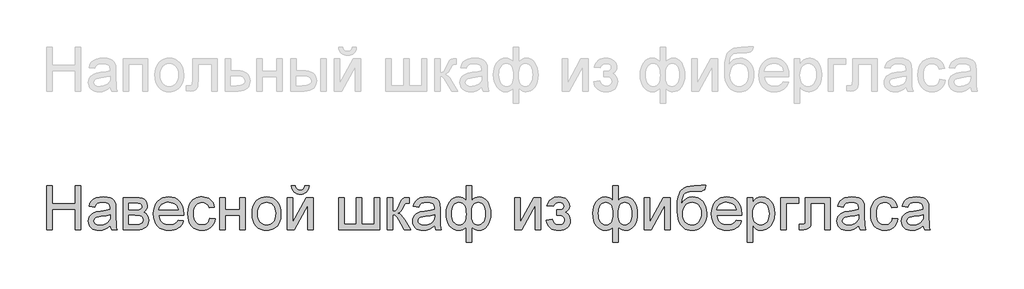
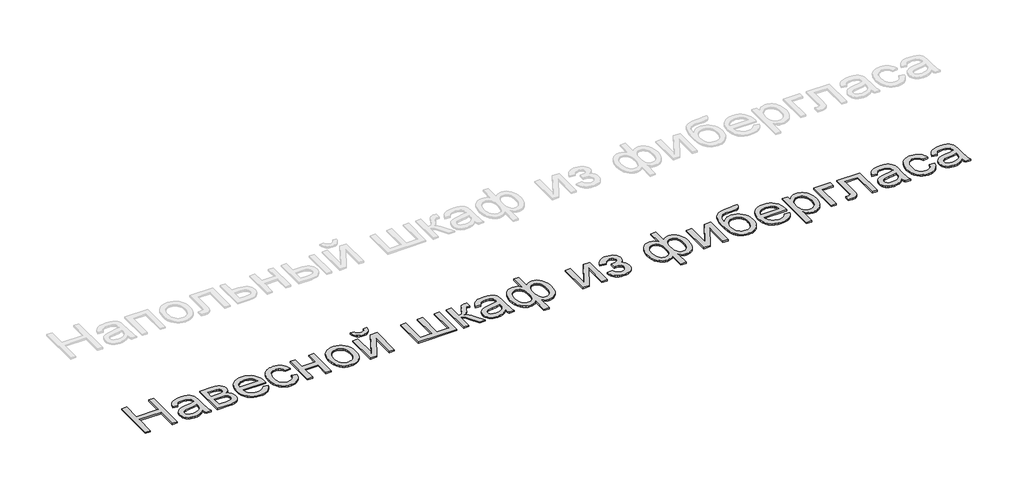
# One storey, part 2 of 6: 1 proxy.
"""IFC4 building model written with IfcOpenShell, lengths in millimetres."""

import ifcopenshell
import ifcopenshell.guid

model = None  # the IFC model being written
_history = None  # IfcOwnerHistory: only IFC2X3 demands one
_inside = {}  # id of a spatial element -> (the spatial element, [elements in it])
_under = {}  # id of a project, library or spatial element -> (it, [spatial elements below it])
_declared = {}  # id of a project -> (the project, [libraries it declares])
_typed = {}  # id of a type object -> (the type object, [elements of that type])
_made_of = {}  # id of a material, layer set ... -> (it, [elements and type objects made of it])


def new_model(schema):
    """Start an empty IFC model of exactly this schema.

    Asked for "IFC4X3", IfcOpenShell would pick the latest addendum, in which some entities
    have other attributes; the version numbers below select the first issue.
    IFC2X3 requires an IfcOwnerHistory on every rooted entity: one is made here for all.
    """
    global model, _history
    if schema == "IFC4X3":
        model = ifcopenshell.file(schema_version=(4, 3, 0, 0))
    else:
        model = ifcopenshell.file(schema=schema)
    _inside.clear()
    _under.clear()
    _declared.clear()
    _typed.clear()
    _made_of.clear()
    _history = None
    if model.schema == "IFC2X3":
        org = make("IfcOrganization", Name="unknown")
        user = make(
            "IfcPersonAndOrganization",
            ThePerson=make("IfcPerson", FamilyName="unknown"),
            TheOrganization=org,
        )
        app = make(
            "IfcApplication",
            ApplicationDeveloper=org,
            Version="unknown",
            ApplicationFullName="unknown",
            ApplicationIdentifier="unknown",
        )
        _history = make(
            "IfcOwnerHistory",
            OwningUser=user,
            OwningApplication=app,
            ChangeAction="ADDED",
            CreationDate=0,
        )
    return model


def make(cls, **values):
    """One entity of the class cls with the attributes given. An attribute that is None is left unset."""
    return model.create_entity(
        cls, **{name: value for name, value in values.items() if value is not None}
    )


def rooted(cls, **values):
    """An entity with a GlobalId (a new one), such as an element, a storey or a relation."""
    return make(cls, GlobalId=ifcopenshell.guid.new(), OwnerHistory=_history, **values)


def si_unit(unit_type, name, prefix=None):
    """IfcSIUnit, for example si_unit("LENGTHUNIT", "METRE", prefix="MILLI")."""
    return make("IfcSIUnit", UnitType=unit_type, Prefix=prefix, Name=name)


def assignment(units):
    """IfcUnitAssignment: the units of a project."""
    return None if units is None else make("IfcUnitAssignment", Units=units)


def point(xyz):
    """IfcCartesianPoint."""
    return None if xyz is None else make("IfcCartesianPoint", Coordinates=xyz)


def direction(xyz):
    """IfcDirection."""
    return None if xyz is None else make("IfcDirection", DirectionRatios=xyz)


def frame(location, z_axis=None, x_axis=None):
    """IfcAxis2Placement3D, a coordinate frame: its origin and axes. An axis left out is left unset."""
    return make(
        "IfcAxis2Placement3D",
        Location=point(location),
        Axis=direction(z_axis),
        RefDirection=direction(x_axis),
    )


def origin():
    """The frame at (0, 0, 0) with its axes left unset."""
    return frame((0.0, 0.0, 0.0))


def origin_with_axes():
    """The frame at (0, 0, 0) with the z axis (0, 0, 1) and the x axis (1, 0, 0) written out."""
    return frame((0.0, 0.0, 0.0), z_axis=(0.0, 0.0, 1.0), x_axis=(1.0, 0.0, 0.0))


def place(relative_to, where):
    """IfcLocalPlacement: puts the frame where relative to a parent placement (None: the world)."""
    return make(
        "IfcLocalPlacement", PlacementRelTo=relative_to, RelativePlacement=where
    )


def context(
    kind, dimensions, precision=None, world=None, true_north=None, identifier=None
):
    """IfcGeometricRepresentationContext, for example the 3D "Model" context."""
    return make(
        "IfcGeometricRepresentationContext",
        ContextIdentifier=identifier,
        ContextType=kind,
        CoordinateSpaceDimension=dimensions,
        Precision=precision,
        WorldCoordinateSystem=world,
        TrueNorth=true_north,
    )


def project(units=None, contexts=None):
    """IfcProject with its units and contexts."""
    return rooted(
        "IfcProject",
        Name="project",
        RepresentationContexts=contexts,
        UnitsInContext=assignment(units),
    )


def spatial(cls, under=None, at=None, **own):
    """A site, building, storey or space (cls), placed at a placement, below another one or the project."""
    s = rooted(cls, ObjectPlacement=at, **own)
    if under is not None:
        _under.setdefault(under.id(), (under, []))[1].append(s)
    return s


def polyline(points):
    """IfcPolyline through the points."""
    return make("IfcPolyline", Points=[point(p) for p in points])


def outline(outer, holes=None, kind="AREA"):
    """IfcArbitraryClosedProfileDef: a profile drawn as a closed curve; with holes, ...WithVoids."""
    if holes is None:
        return make("IfcArbitraryClosedProfileDef", ProfileType=kind, OuterCurve=outer)
    return make(
        "IfcArbitraryProfileDefWithVoids",
        ProfileType=kind,
        OuterCurve=outer,
        InnerCurves=holes,
    )


def extrude(swept, where, along, depth):
    """IfcExtrudedAreaSolid: the profile swept, set in the frame where, extruded along a direction by depth."""
    return make(
        "IfcExtrudedAreaSolid",
        SweptArea=swept,
        Position=where,
        ExtrudedDirection=direction(along),
        Depth=depth,
    )


def shape(context_of_items, identifier, shape_type, items):
    """IfcShapeRepresentation: the items that make up one representation, for example the "Body"."""
    return make(
        "IfcShapeRepresentation",
        ContextOfItems=context_of_items,
        RepresentationIdentifier=identifier,
        RepresentationType=shape_type,
        Items=items,
    )


def made_of(thing, what):
    """Note that an element or type object is made of a material, layer set ...; save() writes the relation."""
    if what is not None:
        _made_of.setdefault(what.id(), (what, []))[1].append(thing)
    return thing


def element(
    cls,
    number,
    at=None,
    inside=None,
    cuts=None,
    type_object=None,
    material=None,
    context=None,
    identifier="Body",
    shape_type=None,
    held_by="IfcProductDefinitionShape",
    body=None,
    shapes=None,
    **own,
):
    """One element of the class cls, such as IfcWall. Its Tag is "e" and its number.

    at: its placement. inside: the storey or other place that contains it. cuts: it is an
    opening in that element (IfcRelVoidsElement). A single representation is given by context,
    identifier, shape_type and body (its items); several are given by shapes. held_by: the class
    of the entity that holds the representations. save() writes the other relations.
    """
    e = rooted(cls, Tag="e%d" % number, ObjectPlacement=at, **own)
    if body is not None:
        shapes = [shape(context, identifier, shape_type, body)]
    if shapes is not None:
        e.Representation = make(held_by, Representations=shapes)
    if inside is not None:
        _inside.setdefault(inside.id(), (inside, []))[1].append(e)
    if cuts is not None:
        rooted(
            "IfcRelVoidsElement", RelatingBuildingElement=cuts, RelatedOpeningElement=e
        )
    if type_object is not None:
        _typed.setdefault(type_object.id(), (type_object, []))[1].append(e)
    return made_of(e, material)


def aggregate(whole, parts):
    """IfcRelAggregates: a whole, such as a stair, and the parts it consists of."""
    return rooted("IfcRelAggregates", RelatingObject=whole, RelatedObjects=parts)


def save(model, path):
    """Write the relations noted so far, then the file.

    IfcRelAggregates (storeys below a building ...), IfcRelContainedInSpatialStructure (elements
    in a storey), IfcRelDefinesByType, IfcRelAssociatesMaterial and IfcRelDeclares: one each for
    every whole, place, type object, material and project.
    """
    for whole, parts in _under.values():
        aggregate(whole, parts)
    for where, things in _inside.values():
        rooted(
            "IfcRelContainedInSpatialStructure",
            RelatedElements=things,
            RelatingStructure=where,
        )
    for kind, things in _typed.values():
        rooted("IfcRelDefinesByType", RelatedObjects=things, RelatingType=kind)
    for what, things in _made_of.values():
        rooted("IfcRelAssociatesMaterial", RelatedObjects=things, RelatingMaterial=what)
    for by, libraries in _declared.values():
        rooted("IfcRelDeclares", RelatingContext=by, RelatedDefinitions=libraries)
    model.write(path)


model = new_model("IFC4")

# Units and contexts
model_context = context("Model", 3, world=origin())
ifc_project = project(units=[si_unit("LENGTHUNIT", "METRE", prefix="MILLI")], contexts=[model_context])

# Site, building, storey
site = spatial("IfcSite", under=ifc_project)
building = spatial("IfcBuilding", under=site)
storey = spatial("IfcBuildingStorey", under=building, Name="Этаж 01", Elevation=0.0)

# Proxy
placement = place(None, origin())
element("IfcBuildingElementProxy", 1, Name="600 мм Arial", ObjectType="600 мм Arial", at=placement, inside=storey, context=model_context, shape_type="SweptSolid", body=[
    extrude(outline(polyline([(180.1086, -14983.7017778), (180.1086, -14380.9639169), (255.4508326, -14380.9639169), (255.4508326, -14625.8261729), (575.6553212, -14625.8261729), (575.6553212, -14380.9639169), (650.9975538, -14380.9639169), (650.9975538, -14983.7017778), (575.6553212, -14983.7017778), (575.6553212, -14701.1684055), (255.4508326, -14701.1684055), (255.4508326, -14983.7017778), (180.1086, -14983.7017778)])), origin_with_axes(), (0.0, 0.0, 1.0), 20.0),
    extrude(outline(polyline([(1055.9620541, -14927.1951033), (1019.9648008, -14958.0604027), (982.9006898, -14978.2571243), (943.9235924, -14989.4039487), (902.1873801, -14993.1195569), (868.6411407, -14990.8846738), (839.2243766, -14984.1800244), (813.937088, -14973.0056088), (792.7792747, -14957.3614269), (776.0728336, -14938.2407602), (764.1396614, -14916.6368901), (756.9797581, -14892.5498164), (754.5931236, -14865.9795393), (758.1983672, -14834.7463579), (769.0140978, -14806.3826561), (785.6975463, -14782.1024444), (806.9059433, -14763.1197335), (831.8299485, -14748.7723357), (859.6602214, -14738.3980634), (924.848911, -14727.067298), (1001.8834008, -14715.1479213), (1055.5205957, -14701.1684055), (1055.9620541, -14684.3929865), (1050.7749179, -14650.7685722), (1044.2909978, -14638.3157666), (1035.2135095, -14628.7692288), (1019.5233425, -14619.2410852), (1000.4118728, -14612.4352683), (951.9250258, -14606.9906147), (907.0434224, -14610.6142524), (875.6998764, -14621.4851653), (854.3259325, -14641.5899164), (839.3531353, -14672.9150683), (764.0109027, -14663.4972892), (777.0891076, -14622.2945057), (796.6052475, -14589.9208902), (824.3803381, -14565.1624319), (862.2353954, -14546.8051203), (908.5333445, -14535.4375667), (961.6371105, -14531.6483821), (1012.5703727, -14534.9961083), (1052.9454217, -14545.0392867), (1083.3876568, -14560.1408426), (1104.5224774, -14578.6637011), (1118.5387815, -14601.5643553), (1127.6254667, -14629.7992984), (1131.3042867, -14695.723752), (1131.3042867, -14789.4600843), (1135.1302594, -14920.3524982), (1140.7956422, -14952.7077197), (1150.1398448, -14983.7017778), (1074.7976122, -14983.7017778), (1062.7310828, -14957.5085797), (1055.9620541, -14927.1951033)]), holes=[polyline([(1055.9620541, -14776.5106381), (1005.3414915, -14789.0554141), (934.4138429, -14799.6136274), (869.5930353, -14811.8273096), (852.7256458, -14820.1782309), (840.2360521, -14831.6929374), (832.5105302, -14845.4885122), (829.9353562, -14860.6820386), (835.5455567, -14883.0860521), (852.3761579, -14901.4433637), (880.0592781, -14913.6938341), (918.2270351, -14917.7773243), (958.6940545, -14913.2707698), (994.4521845, -14899.7511065), (1023.4412857, -14879.8302965), (1043.601219, -14856.1203019), (1052.5407515, -14831.6929374), (1055.5205957, -14797.8477938), (1055.9620541, -14776.5106381)])]), origin_with_axes(), (0.0, 0.0, 1.0), 20.0),
    extrude(outline(polyline([(1234.8998565, -14541.0661612), (1400.8882128, -14541.0661612), (1454.2494962, -14543.5861529), (1491.9022184, -14551.1461279), (1519.6037326, -14565.4199493), (1543.1113921, -14588.0814802), (1559.1694412, -14617.6040103), (1564.5221242, -14652.4608293), (1561.2847626, -14680.5486197), (1551.572678, -14704.7736491), (1535.349082, -14725.2462821), (1512.5771865, -14742.0768834), (1540.4626417, -14757.7302623), (1563.197749, -14782.9117848), (1578.317699, -14815.6348883), (1583.3576824, -14853.9130099), (1579.1730247, -14884.7507181), (1570.5921771, -14911.3393893), (1557.6151397, -14933.6790235), (1540.2419125, -14951.7696206), (1518.4449043, -14965.7399394), (1492.196524, -14975.7187385), (1461.4967715, -14981.706018), (1426.3456468, -14983.7017778), (1234.8998565, -14983.7017778), (1234.8998565, -14541.0661612)]), holes=[polyline([(1310.2420891, -14710.5861846), (1384.701405, -14710.5861846), (1446.1376982, -14706.7602118), (1461.9566239, -14701.0212527), (1476.0097162, -14691.4563208), (1485.8873477, -14678.8011802), (1489.1798916, -14663.7915948), (1487.7359548, -14651.5503214), (1483.4041443, -14641.3140049), (1476.1844601, -14633.0826452), (1466.0769023, -14626.8562425), (1434.7701445, -14619.020356), (1387.0558497, -14616.4083938), (1310.2420891, -14616.4083938), (1310.2420891, -14710.5861846)]), polyline([(1310.2420891, -14908.3595452), (1402.6540463, -14908.3595452), (1453.0170915, -14904.9566367), (1484.6181549, -14894.7479114), (1494.413013, -14886.7050912), (1501.5775148, -14876.1882647), (1508.0154497, -14847.7325924), (1504.7964823, -14828.8786401), (1495.1395799, -14811.4594277), (1480.3139355, -14797.8293997), (1461.588742, -14790.3430011), (1395.2964064, -14785.9284172), (1310.2420891, -14785.9284172), (1310.2420891, -14908.3595452)])]), origin_with_axes(), (0.0, 0.0, 1.0), 20.0),
    extrude(outline(polyline([(1987.4392659, -14851.8528707), (2061.3099705, -14861.2706498), (2049.9838036, -14890.8575593), (2034.6937081, -14916.9311957), (2015.4396842, -14939.491559), (1992.2217318, -14958.5386493), (1965.2789742, -14973.6677964), (1934.8505346, -14984.47433), (1900.9364132, -14990.9582501), (1863.5366099, -14993.1195569), (1816.7880053, -14989.3901531), (1775.1345664, -14978.201942), (1738.5762932, -14959.5549233), (1707.1131855, -14933.4490973), (1681.8121013, -14900.6110307), (1663.7398983, -14861.7672905), (1652.8965765, -14816.9178768), (1649.2821359, -14766.0627894), (1652.9333647, -14713.4832553), (1663.8870511, -14667.1393209), (1682.1431951, -14627.0309864), (1707.7017967, -14593.1582517), (1739.0821309, -14566.2476838), (1774.8034726, -14547.0258495), (1814.8658219, -14535.492749), (1859.2691787, -14531.6483821), (1902.2423943, -14535.4835519), (1941.1045286, -14546.9890613), (1975.8555815, -14566.1649103), (2006.4955532, -14593.0110989), (2031.5069304, -14626.8102572), (2049.3721997, -14666.8450153), (2060.0913614, -14713.1153733), (2063.6644153, -14765.6213311), (2063.2229569, -14785.9284172), (1724.6243685, -14785.9284172), (1728.9883687, -14815.9935732), (1737.6657852, -14842.324727), (1750.6566182, -14864.9218786), (1767.9608675, -14883.7850279), (1788.6220401, -14898.6566576), (1811.6836427, -14909.2792502), (1837.1456753, -14915.6528057), (1865.0081379, -14917.7773243), (1905.1072753, -14913.8409869), (1938.8788425, -14902.0319749), (1966.3228393, -14881.6145241), (1987.4392659, -14851.8528707)]), holes=[polyline([(1724.6243685, -14710.5861846), (1988.3221826, -14710.5861846), (1978.1318514, -14670.7813527), (1969.3670628, -14655.1279738), (1958.155859, -14642.3072863), (1937.6096496, -14626.8562425), (1914.2307488, -14615.8197826), (1888.0191567, -14609.1979067), (1858.9748731, -14606.9906147), (1832.482771, -14608.7518498), (1808.1887637, -14614.0355549), (1786.0928514, -14622.8417302), (1766.195034, -14635.1703756), (1749.4977899, -14650.4512739), (1737.0035976, -14668.1142082), (1728.7124572, -14688.1591784), (1724.6243685, -14710.5861846)])]), origin_with_axes(), (0.0, 0.0, 1.0), 20.0),
    extrude(outline(polyline([(2421.5400202, -14823.5995335), (2496.8822528, -14833.0173126), (2488.6876813, -14868.5685089), (2475.8761909, -14900.027018), (2458.4477813, -14927.3928399), (2436.4024528, -14950.6659746), (2410.6691072, -14969.2394169), (2382.1766467, -14982.5061613), (2350.9250712, -14990.466208), (2316.9143807, -14993.1195569), (2274.6585351, -14989.4177443), (2236.7712881, -14978.3123066), (2203.2526398, -14959.8032437), (2174.1025902, -14933.8905556), (2150.5075587, -14901.0616861), (2133.6539648, -14861.8040787), (2123.5418085, -14816.1177334), (2120.1710897, -14764.0026503), (2125.9284429, -14696.9561567), (2133.1251345, -14666.7852345), (2143.2005026, -14638.8491955), (2156.2235252, -14613.7090597), (2172.2631802, -14591.925847), (2191.3194676, -14573.4995576), (2213.3923873, -14558.4301914), (2237.4840595, -14546.7131498), (2262.5966042, -14538.3438344), (2288.7300214, -14533.3222452), (2315.8843112, -14531.6483821), (2349.3109889, -14533.9476446), (2379.5462904, -14540.845432), (2406.5902156, -14552.3417444), (2430.4427645, -14568.4365816), (2450.6992668, -14588.7620619), (2466.9550525, -14612.9503031), (2479.2101214, -14641.0013052), (2487.4644737, -14672.9150683), (2412.1222411, -14682.3328473), (2398.455425, -14649.4625911), (2377.1734516, -14625.8997493), (2349.4535432, -14611.7178984), (2316.4729223, -14606.9906147), (2290.872934, -14609.3174684), (2267.7837403, -14616.2980292), (2247.2053412, -14627.9322973), (2229.1377367, -14644.2202726), (2214.4270554, -14665.5390343), (2203.9194259, -14692.2656612), (2197.6148482, -14724.4001535), (2195.5133223, -14761.9425111), (2197.568863, -14800.0504873), (2203.7354849, -14832.5574601), (2214.0131882, -14859.4634295), (2228.4019727, -14880.7683955), (2246.1108922, -14896.9598019), (2266.3490005, -14908.5250921), (2289.1162975, -14915.4642662), (2314.4127832, -14917.7773243), (2353.4266688, -14912.0015769), (2370.2986568, -14904.7818928), (2385.4140082, -14894.674335), (2398.3496589, -14881.5685389), (2408.6825444, -14865.3541399), (2416.4126649, -14846.0311381), (2421.5400202, -14823.5995335)])), origin_with_axes(), (0.0, 0.0, 1.0), 20.0),
    extrude(outline(polyline([(2562.8067063, -14541.0661612), (2638.1489389, -14541.0661612), (2638.1489389, -14710.5861846), (2835.9222995, -14710.5861846), (2835.9222995, -14541.0661612), (2911.2645321, -14541.0661612), (2911.2645321, -14983.7017778), (2835.9222995, -14983.7017778), (2835.9222995, -14785.9284172), (2638.1489389, -14785.9284172), (2638.1489389, -14983.7017778), (2562.8067063, -14983.7017778), (2562.8067063, -14541.0661612)])), origin_with_axes(), (0.0, 0.0, 1.0), 20.0),
    extrude(outline(polyline([(3005.4423229, -14762.3839695), (3009.516616, -14705.0587576), (3021.7394953, -14655.6614027), (3042.1109608, -14614.1919048), (3070.6310125, -14580.6502639), (3099.3442022, -14559.2119406), (3131.0372361, -14543.8988526), (3165.7101141, -14534.7109997), (3203.3628363, -14531.6483821), (3244.9289032, -14535.3777858), (3282.5126476, -14546.565997), (3316.1140693, -14565.2130157), (3345.7331685, -14591.3188417), (3369.9076141, -14624.0005585), (3387.1750752, -14662.3752491), (3397.5355519, -14706.4429136), (3400.9890441, -14756.203552), (3399.4623338, -14796.5326157), (3394.882203, -14832.3183368), (3387.2486516, -14863.5607152), (3376.5616796, -14890.259751), (3362.9546444, -14913.3213536), (3346.5609029, -14933.6514324), (3327.3804554, -14951.2499873), (3305.4133018, -14966.1170184), (3281.5147677, -14977.930629), (3256.5401787, -14986.3689223), (3230.4895349, -14991.4318982), (3203.3628363, -14993.1195569), (3161.1897641, -14989.4039487), (3123.2565319, -14978.2571243), (3089.5631396, -14959.6790835), (3060.1095874, -14933.6698265), (3036.1926592, -14900.6708115), (3019.109139, -14861.123497), (3008.8590269, -14815.027883), (3005.4423229, -14762.3839695)]), holes=[polyline([(3080.7845555, -14762.2368167), (3082.9642563, -14798.7812944), (3089.5033588, -14830.4237445), (3100.4018629, -14857.164167), (3115.6597687, -14879.002562), (3134.2194153, -14895.9665205), (3155.0231422, -14908.0836337), (3178.0709491, -14915.3539016), (3203.3628363, -14917.7773243), (3228.5259648, -14915.340106), (3251.4818013, -14908.0284514), (3272.2303458, -14895.8423603), (3290.7715984, -14878.7818328), (3306.0295041, -14856.7273072), (3316.9280082, -14829.5592218), (3323.4671107, -14797.2775767), (3325.6468115, -14759.8823719), (3323.4533151, -14724.4967225), (3316.8728259, -14693.6820069), (3305.9053439, -14667.4382251), (3290.5508692, -14645.765377), (3271.9406387, -14628.8014185), (3251.2058898, -14616.6843053), (3228.3466223, -14609.4140374), (3203.3628363, -14606.9906147), (3178.0709491, -14609.4048403), (3155.0231422, -14616.6475171), (3134.2194153, -14628.7186451), (3115.6597687, -14645.6182242), (3100.4018629, -14667.3922398), (3089.5033588, -14694.0866771), (3082.9642563, -14725.7015361), (3080.7845555, -14762.2368167)])]), origin_with_axes(), (0.0, 0.0, 1.0), 20.0),
    extrude(outline(polyline([(3730.6113118, -14380.9639169), (3787.1179863, -14380.9639169), (3782.5700451, -14406.6742698), (3774.9594863, -14429.2116406), (3764.2863099, -14448.5760291), (3750.5505159, -14464.7674354), (3734.0280158, -14477.5467362), (3714.9947211, -14486.6748082), (3693.4506318, -14492.1516514), (3669.3957478, -14493.9772658), (3643.2669291, -14492.165447), (3619.9156195, -14486.7299905), (3599.3418189, -14477.6708964), (3581.5455274, -14464.9881646), (3566.7842623, -14448.8657362), (3555.3155411, -14429.4875521), (3547.1393638, -14406.8536123), (3542.2557303, -14380.9639169), (3598.7624047, -14380.9639169), (3606.7086558, -14405.7775575), (3619.9524077, -14423.4174991), (3638.5672366, -14433.9573183), (3662.6267191, -14437.4705914), (3689.7764103, -14434.0676829), (3709.4213089, -14423.8589575), (3722.6650607, -14406.3293805), (3730.6113118, -14380.9639169)])), origin_with_axes(), (0.0, 0.0, 1.0), 20.0),
    extrude(outline(polyline([(3485.7490558, -14541.0661612), (3561.0912884, -14541.0661612), (3561.0912884, -14878.63468), (3746.2095084, -14541.0661612), (3843.6246607, -14541.0661612), (3843.6246607, -14983.7017778), (3768.2824281, -14983.7017778), (3768.2824281, -14648.1933982), (3584.3414305, -14983.7017778), (3485.7490558, -14983.7017778), (3485.7490558, -14541.0661612)])), origin_with_axes(), (0.0, 0.0, 1.0), 20.0),
    extrude(outline(polyline([(4192.0824866, -14541.0661612), (4267.4247192, -14541.0661612), (4267.4247192, -14908.3595452), (4436.9447425, -14908.3595452), (4436.9447425, -14541.0661612), (4512.2869752, -14541.0661612), (4512.2869752, -14908.3595452), (4681.8069985, -14908.3595452), (4681.8069985, -14541.0661612), (4757.1492311, -14541.0661612), (4757.1492311, -14983.7017778), (4192.0824866, -14983.7017778), (4192.0824866, -14541.0661612)])), origin_with_axes(), (0.0, 0.0, 1.0), 20.0),
    extrude(outline(polyline([(4860.744801, -14541.0661612), (4936.0870336, -14541.0661612), (4936.0870336, -14729.4217427), (4966.7316038, -14726.0372284), (4986.5604433, -14715.8836853), (5004.1084145, -14689.3961817), (5027.9103796, -14637.0097855), (5047.0954256, -14594.1699272), (5062.2705579, -14568.9516164), (5076.4340148, -14555.2112239), (5092.5840343, -14546.8051203), (5114.9328656, -14542.500901), (5147.6927572, -14541.0661612), (5162.1137314, -14541.0661612), (5162.1137314, -14616.8498522), (5141.8066453, -14616.4083938), (5118.2621976, -14618.3949566), (5105.0184458, -14624.3546449), (5094.2762915, -14640.9461229), (5079.1195533, -14673.9451379), (5063.208657, -14706.9993351), (5048.7325005, -14727.5823328), (5031.2029235, -14741.3227253), (5006.1317655, -14753.8491072), (5030.007307, -14764.4533057), (5053.6621193, -14783.1693022), (5077.0962024, -14809.9970967), (5100.3095562, -14844.9366892), (5180.9492896, -14983.7017778), (5095.3063611, -14983.7017778), (5016.2853085, -14847.8797452), (4994.9481528, -14811.7353391), (4976.5540531, -14790.4165775), (4957.9760123, -14779.987123), (4936.0870336, -14776.5106381), (4936.0870336, -14983.7017778), (4860.744801, -14983.7017778), (4860.744801, -14541.0661612)])), origin_with_axes(), (0.0, 0.0, 1.0), 20.0),
    extrude(outline(polyline([(5510.5715573, -14927.1951033), (5474.574304, -14958.0604027), (5437.510193, -14978.2571243), (5398.5330956, -14989.4039487), (5356.7968833, -14993.1195569), (5323.2506438, -14990.8846738), (5293.8338798, -14984.1800244), (5268.5465912, -14973.0056088), (5247.3887779, -14957.3614269), (5230.6823368, -14938.2407602), (5218.7491646, -14916.6368901), (5211.5892613, -14892.5498164), (5209.2026268, -14865.9795393), (5212.8078704, -14834.7463579), (5223.623601, -14806.3826561), (5240.3070495, -14782.1024444), (5261.5154465, -14763.1197335), (5286.4394517, -14748.7723357), (5314.2697246, -14738.3980634), (5379.4584142, -14727.067298), (5456.492904, -14715.1479213), (5510.1300989, -14701.1684055), (5510.5715573, -14684.3929865), (5505.3844211, -14650.7685722), (5498.900501, -14638.3157666), (5489.8230127, -14628.7692288), (5474.1328456, -14619.2410852), (5455.021376, -14612.4352683), (5406.534529, -14606.9906147), (5361.6529256, -14610.6142524), (5330.3093796, -14621.4851653), (5308.9354357, -14641.5899164), (5293.9626385, -14672.9150683), (5218.6204059, -14663.4972892), (5231.6986108, -14622.2945057), (5251.2147507, -14589.9208902), (5278.9898413, -14565.1624319), (5316.8448986, -14546.8051203), (5363.1428477, -14535.4375667), (5416.2466137, -14531.6483821), (5467.1798759, -14534.9961083), (5507.5549249, -14545.0392867), (5537.99716, -14560.1408426), (5559.1319806, -14578.6637011), (5573.1482846, -14601.5643553), (5582.2349699, -14629.7992984), (5585.9137899, -14695.723752), (5585.9137899, -14789.4600843), (5589.7397626, -14920.3524982), (5595.4051454, -14952.7077197), (5604.749348, -14983.7017778), (5529.4071154, -14983.7017778), (5517.340586, -14957.5085797), (5510.5715573, -14927.1951033)]), holes=[polyline([(5510.5715573, -14776.5106381), (5459.9509947, -14789.0554141), (5389.0233461, -14799.6136274), (5324.2025385, -14811.8273096), (5307.335149, -14820.1782309), (5294.8455553, -14831.6929374), (5287.1200334, -14845.4885122), (5284.5448594, -14860.6820386), (5290.1550599, -14883.0860521), (5306.9856611, -14901.4433637), (5334.6687813, -14913.6938341), (5372.8365383, -14917.7773243), (5413.3035577, -14913.2707698), (5449.0616877, -14899.7511065), (5478.0507889, -14879.8302965), (5498.2107222, -14856.1203019), (5507.1502547, -14831.6929374), (5510.1300989, -14797.8477938), (5510.5715573, -14776.5106381)])]), origin_with_axes(), (0.0, 0.0, 1.0), 20.0),
    extrude(outline(polyline([(5943.7893948, -14380.9639169), (6019.1316274, -14380.9639169), (6019.1316274, -14583.5933198), (6041.9954934, -14560.7294538), (6067.0298632, -14544.524252), (6094.1243721, -14534.8673496), (6123.1686556, -14531.6483821), (6158.0484673, -14535.7410693), (6189.1115033, -14548.0191309), (6216.3577635, -14568.4825669), (6239.7872481, -14597.1313773), (6258.6182077, -14631.9881963), (6272.0688932, -14671.0756583), (6280.1393045, -14714.3937632), (6282.8294415, -14761.9425111), (6279.9323708, -14811.252494), (6271.2411587, -14855.586873), (6256.7558051, -14894.9456479), (6236.4763102, -14929.3288189), (6211.8925958, -14957.2372668), (6184.4945842, -14977.1718724), (6154.2822754, -14989.1326357), (6121.2556693, -14993.1195569), (6098.4101974, -14991.2801469), (6075.1968435, -14985.761917), (6049.481892, -14972.0399185), (6019.1316274, -14945.5892031), (6019.1316274, -15153.2218012), (5943.7893948, -15153.2218012), (5943.7893948, -14945.5892031), (5920.8703465, -14966.3377476), (5895.6704298, -14981.2001802), (5868.2632212, -14990.1397127), (5838.722297, -14993.1195569), (5806.091164, -14989.3119782), (5775.5937466, -14977.8892423), (5747.2300448, -14958.851349), (5721.0000585, -14932.1982985), (5698.9823211, -14898.4543225), (5683.2553658, -14858.1436528), (5673.8191926, -14811.2662896), (5670.6738016, -14757.8222328), (5673.5202885, -14711.7174217), (5682.0597493, -14669.4937657), (5696.292184, -14631.1512648), (5716.2175926, -14596.6899189), (5740.9530582, -14568.2342465), (5769.6156642, -14547.9087663), (5802.2054104, -14535.7134782), (5838.722297, -14531.6483821), (5869.4220495, -14534.8673496), (5897.0683814, -14544.524252), (5921.8084456, -14560.7294538), (5943.7893948, -14583.5933198), (5943.7893948, -14380.9639169)]), holes=[polyline([(6018.690169, -14763.7083447), (6020.258266, -14805.5871113), (6024.962557, -14839.9886764), (6032.803042, -14866.9130399), (6043.7797211, -14886.3602019), (6057.1200419, -14900.1051929), (6072.0514524, -14909.9230437), (6088.5739525, -14915.8137541), (6106.6875423, -14917.7773243), (6126.8152859, -14915.3630987), (6145.4071222, -14908.1204219), (6162.4630512, -14896.0492939), (6177.9830729, -14879.1497148), (6190.8911324, -14857.164167), (6200.1111749, -14829.8351333), (6205.6432004, -14797.1626136), (6207.4872089, -14759.1466079), (6205.7857547, -14723.1861429), (6200.681392, -14692.1185084), (6192.1741209, -14665.9437045), (6180.2639413, -14644.661731), (6165.6866172, -14628.1806177), (6149.1779127, -14616.4083938), (6130.7378277, -14609.3450595), (6110.3663622, -14606.9906147), (6088.9694257, -14609.4416285), (6070.3959834, -14616.7946699), (6054.6460355, -14629.0497389), (6041.7195819, -14646.2068354), (6031.6442138, -14668.2567625), (6024.4475222, -14695.1903231), (6020.1295073, -14727.0075171), (6018.690169, -14763.7083447)]), polyline([(5746.0160342, -14756.203552), (5747.9014294, -14796.1647337), (5753.5576151, -14830.1110448), (5762.9845912, -14858.0424853), (5776.1823578, -14879.9590552), (5792.1760275, -14896.5045479), (5809.9907131, -14908.322757), (5829.6264146, -14915.4136824), (5851.083132, -14917.7773243), (5873.0043004, -14915.427478), (5891.9732158, -14908.3779393), (5907.9898781, -14896.6287081), (5921.0542875, -14880.1797844), (5931.194035, -14859.0311682), (5938.4367118, -14833.1828595), (5942.7823178, -14802.6348583), (5944.2308532, -14767.3871646), (5942.7087414, -14729.7942232), (5938.1424062, -14697.2136741), (5930.5318474, -14669.645517), (5919.8770651, -14647.0897522), (5906.1504682, -14629.5463796), (5889.3244654, -14617.0153991), (5869.3990568, -14609.4968108), (5846.3742425, -14606.9906147), (5825.1842395, -14609.43703), (5806.0543758, -14616.7762758), (5788.9846512, -14629.0083521), (5773.9750658, -14646.133259), (5761.7429895, -14667.6911439), (5753.0057921, -14693.2221544), (5747.7634737, -14722.7262904), (5746.0160342, -14756.203552)])]), origin_with_axes(), (0.0, 0.0, 1.0), 20.0),
    extrude(outline(polyline([(6612.4517092, -14541.0661612), (6687.7939418, -14541.0661612), (6687.7939418, -14878.63468), (6872.9121618, -14541.0661612), (6970.3273141, -14541.0661612), (6970.3273141, -14983.7017778), (6894.9850815, -14983.7017778), (6894.9850815, -14648.1933982), (6711.0440839, -14983.7017778), (6612.4517092, -14983.7017778), (6612.4517092, -14541.0661612)])), origin_with_axes(), (0.0, 0.0, 1.0), 20.0),
    extrude(outline(polyline([(7186.9362329, -14785.9284172), (7186.9362329, -14710.5861846), (7246.3859633, -14707.6431286), (7261.8370071, -14702.4008102), (7276.4051341, -14691.9713556), (7287.0001356, -14677.2744699), (7290.5318027, -14659.229858), (7285.8045191, -14637.8007318), (7271.6226682, -14621.1908597), (7249.9728128, -14610.540676), (7222.8415156, -14606.9906147), (7195.4159129, -14610.5222819), (7172.4416823, -14621.1172833), (7153.9188238, -14638.7756191), (7139.8473375, -14663.4972892), (7055.0873258, -14654.0795101), (7064.8637898, -14625.3847145), (7077.5649157, -14600.5158916), (7093.1907035, -14579.4730415), (7111.7411531, -14562.2561641), (7133.2162645, -14548.8652595), (7157.6160379, -14539.3003276), (7184.9404731, -14533.5613685), (7215.1895701, -14531.6483821), (7248.5932553, -14533.9798343), (7278.1709677, -14540.9741907), (7303.9227074, -14552.6314514), (7325.8484743, -14568.9516164), (7343.3596572, -14588.509143), (7355.8676451, -14609.8784884), (7363.3724378, -14633.0596526), (7365.8740353, -14658.0526357), (7362.314777, -14682.7743057), (7351.6370021, -14704.8472255), (7333.8407106, -14724.2713948), (7308.9259025, -14741.0468138), (7338.0069742, -14761.9792993), (7358.7371246, -14787.9885564), (7371.153142, -14819.1481614), (7375.2918144, -14855.5316907), (7372.6660567, -14884.7001344), (7364.7887835, -14910.9899014), (7351.6599948, -14934.4009919), (7333.2796906, -14954.9334058), (7310.1812998, -14971.6398469), (7282.8982513, -14983.5730191), (7251.4305452, -14990.7329224), (7215.7781813, -14993.1195569), (7181.0271283, -14990.9122649), (7150.1296393, -14984.290389), (7123.0857141, -14973.2539291), (7099.8953528, -14957.8028853), (7080.5585555, -14937.9372576), (7065.075322, -14913.6570459), (7053.4456524, -14884.9622503), (7045.6695467, -14851.8528707), (7130.4295584, -14842.4350916), (7143.1214873, -14874.2936724), (7164.4218548, -14898.0588493), (7191.8658516, -14912.8477055), (7222.9886684, -14917.7773243), (7253.3021448, -14913.0500406), (7278.0238149, -14898.8681897), (7294.4681401, -14877.3286989), (7299.9495818, -14850.5284955), (7296.5466734, -14829.3017044), (7286.337948, -14810.9443929), (7272.2848558, -14797.1856062), (7257.3488468, -14789.7543899), (7201.6515127, -14785.4869588), (7186.9362329, -14785.9284172)])), origin_with_axes(), (0.0, 0.0, 1.0), 20.0),
    extrude(outline(polyline([(7959.1941172, -14380.9639169), (8034.5363498, -14380.9639169), (8034.5363498, -14583.5933198), (8057.4002158, -14560.7294538), (8082.4345855, -14544.524252), (8109.5290945, -14534.8673496), (8138.573378, -14531.6483821), (8173.4531897, -14535.7410693), (8204.5162256, -14548.0191309), (8231.7624859, -14568.4825669), (8255.1919705, -14597.1313773), (8274.0229301, -14631.9881963), (8287.4736156, -14671.0756583), (8295.5440268, -14714.3937632), (8298.2341639, -14761.9425111), (8295.3370932, -14811.252494), (8286.6458811, -14855.586873), (8272.1605275, -14894.9456479), (8251.8810325, -14929.3288189), (8227.2973182, -14957.2372668), (8199.8993066, -14977.1718724), (8169.6869978, -14989.1326357), (8136.6603916, -14993.1195569), (8113.8149197, -14991.2801469), (8090.6015658, -14985.761917), (8064.8866144, -14972.0399185), (8034.5363498, -14945.5892031), (8034.5363498, -15153.2218012), (7959.1941172, -15153.2218012), (7959.1941172, -14945.5892031), (7936.2750689, -14966.3377476), (7911.0751522, -14981.2001802), (7883.6679436, -14990.1397127), (7854.1270193, -14993.1195569), (7821.4958864, -14989.3119782), (7790.998469, -14977.8892423), (7762.6347671, -14958.851349), (7736.4047809, -14932.1982985), (7714.3870435, -14898.4543225), (7698.6600882, -14858.1436528), (7689.223915, -14811.2662896), (7686.0785239, -14757.8222328), (7688.9250109, -14711.7174217), (7697.4644717, -14669.4937657), (7711.6969064, -14631.1512648), (7731.6223149, -14596.6899189), (7756.3577806, -14568.2342465), (7785.0203865, -14547.9087663), (7817.6101328, -14535.7134782), (7854.1270193, -14531.6483821), (7884.8267718, -14534.8673496), (7912.4731038, -14544.524252), (7937.213168, -14560.7294538), (7959.1941172, -14583.5933198), (7959.1941172, -14380.9639169)]), holes=[polyline([(8034.0948914, -14763.7083447), (8035.6629884, -14805.5871113), (8040.3672794, -14839.9886764), (8048.2077644, -14866.9130399), (8059.1844435, -14886.3602019), (8072.5247643, -14900.1051929), (8087.4561748, -14909.9230437), (8103.9786749, -14915.8137541), (8122.0922646, -14917.7773243), (8142.2200083, -14915.3630987), (8160.8118446, -14908.1204219), (8177.8677736, -14896.0492939), (8193.3877953, -14879.1497148), (8206.2958548, -14857.164167), (8215.5158973, -14829.8351333), (8221.0479228, -14797.1626136), (8222.8919313, -14759.1466079), (8221.1904771, -14723.1861429), (8216.0861144, -14692.1185084), (8207.5788433, -14665.9437045), (8195.6686637, -14644.661731), (8181.0913396, -14628.1806177), (8164.5826351, -14616.4083938), (8146.1425501, -14609.3450595), (8125.7710846, -14606.9906147), (8104.374148, -14609.4416285), (8085.8007058, -14616.7946699), (8070.0507579, -14629.0497389), (8057.1243043, -14646.2068354), (8047.0489361, -14668.2567625), (8039.8522446, -14695.1903231), (8035.5342297, -14727.0075171), (8034.0948914, -14763.7083447)]), polyline([(7761.4207566, -14756.203552), (7763.3061518, -14796.1647337), (7768.9623375, -14830.1110448), (7778.3893136, -14858.0424853), (7791.5870802, -14879.9590552), (7807.5807499, -14896.5045479), (7825.3954355, -14908.322757), (7845.031137, -14915.4136824), (7866.4878544, -14917.7773243), (7888.4090228, -14915.427478), (7907.3779381, -14908.3779393), (7923.3946005, -14896.6287081), (7936.4590099, -14880.1797844), (7946.5987574, -14859.0311682), (7953.8414341, -14833.1828595), (7958.1870402, -14802.6348583), (7959.6355756, -14767.3871646), (7958.1134638, -14729.7942232), (7953.5471285, -14697.2136741), (7945.9365698, -14669.645517), (7935.2817875, -14647.0897522), (7921.5551905, -14629.5463796), (7904.7291878, -14617.0153991), (7884.8037792, -14609.4968108), (7861.7789648, -14606.9906147), (7840.5889619, -14609.43703), (7821.4590982, -14616.7762758), (7804.3893736, -14629.0083521), (7789.3797882, -14646.133259), (7777.1477119, -14667.6911439), (7768.4105145, -14693.2221544), (7763.168196, -14722.7262904), (7761.4207566, -14756.203552)])]), origin_with_axes(), (0.0, 0.0, 1.0), 20.0),
    extrude(outline(polyline([(8392.4119547, -14541.0661612), (8467.7541873, -14541.0661612), (8467.7541873, -14878.63468), (8652.8724073, -14541.0661612), (8750.2875596, -14541.0661612), (8750.2875596, -14983.7017778), (8674.945327, -14983.7017778), (8674.945327, -14648.1933982), (8491.0043294, -14983.7017778), (8392.4119547, -14983.7017778), (8392.4119547, -14541.0661612)])), origin_with_axes(), (0.0, 0.0, 1.0), 20.0),
    extrude(outline(polyline([(9174.087618, -14371.5461378), (9240.0120716, -14371.5461378), (9232.8751609, -14407.3594501), (9220.5879022, -14430.3336806), (9203.5549659, -14443.9269204), (9182.1810219, -14451.59726), (9147.342597, -14455.1289271), (9089.9162175, -14456.3061495), (9013.304792, -14460.6471571), (8985.8561967, -14466.0734165), (8965.6456796, -14473.6701797), (8950.2222269, -14483.6581759), (8937.1348249, -14496.2581342), (8926.3834736, -14511.4700547), (8917.968173, -14529.2939374), (8906.6925898, -14573.0351066), (8901.8549416, -14627.7391593), (8932.1500239, -14585.653459), (8967.1172076, -14555.6342882), (8986.3620344, -14545.1404543), (9006.7932807, -14537.6448586), (9051.2150316, -14531.6483821), (9092.2614653, -14535.4605593), (9129.6106848, -14546.8970908), (9163.2626903, -14565.9579767), (9193.2174818, -14592.6432169), (9217.8103932, -14625.8307714), (9235.3767584, -14664.3986001), (9245.9165776, -14708.3467029), (9249.4298506, -14757.67508), (9247.6870097, -14795.4105756), (9242.4584868, -14829.59601), (9233.7442821, -14860.2313832), (9221.5443954, -14887.3166951), (9191.0653721, -14932.1799044), (9155.3992127, -14965.5284072), (9134.5403036, -14977.5995352), (9110.2233037, -14986.2217695), (9082.448213, -14991.39511), (9051.2150316, -14993.1195569), (9015.0844212, -14990.8984693), (8983.2120448, -14984.2352067), (8955.5979026, -14973.129769), (8932.2419944, -14957.5821561), (8912.2522065, -14938.571854), (8894.736425, -14917.0783485), (8879.6946499, -14893.1016394), (8867.1268813, -14866.6417269), (8857.2124615, -14833.8036603), (8850.1307331, -14790.692489), (8845.881696, -14737.308213), (8844.4653504, -14673.6508323), (8848.0384042, -14594.3216785), (8858.7575659, -14529.0916023), (8876.6228353, -14477.9606035), (8888.2352604, -14457.6822581), (8901.6342124, -14440.9286821), (8934.0584118, -14414.6940973), (8974.1621478, -14395.9551082), (9021.9454204, -14384.7117147), (9077.4082297, -14380.9639169), (9161.2853246, -14379.2716597), (9169.4890931, -14376.4941507), (9174.087618, -14371.5461378)]), holes=[polyline([(9174.087618, -14755.3206352), (9172.045873, -14724.2024169), (9165.9206377, -14696.0364517), (9155.7119124, -14670.8227394), (9141.4196969, -14648.5612802), (9123.4118732, -14630.3741141), (9102.0563234, -14617.3832811), (9077.3530474, -14609.5887813), (9049.3020453, -14606.9906147), (9020.0278355, -14609.7359341), (8994.303687, -14617.9718923), (8972.1295997, -14631.6984892), (8953.5055737, -14650.915725), (8938.7627028, -14674.7222886), (8928.2320807, -14702.2168692), (8921.9137074, -14733.3994668), (8919.807583, -14768.2700814), (8922.1344366, -14802.4141291), (8929.1149974, -14832.2999427), (8940.7492655, -14857.9275222), (8957.0372409, -14879.2968676), (8976.7373217, -14896.1320674), (8998.6079063, -14908.1572101), (9022.6489947, -14915.3722957), (9048.8605869, -14917.7773243), (9075.430864, -14914.9952167), (9099.3707848, -14906.6488939), (9120.6803494, -14892.738356), (9139.3595577, -14873.2636028), (9154.5530841, -14849.1995218), (9165.405603, -14821.5210002), (9171.9171143, -14790.228038), (9174.087618, -14755.3206352)])]), origin_with_axes(), (0.0, 0.0, 1.0), 20.0),
    extrude(outline(polyline([(9653.5114342, -14851.8528707), (9727.3821388, -14861.2706498), (9716.0559719, -14890.8575593), (9700.7658764, -14916.9311957), (9681.5118525, -14939.491559), (9658.2939001, -14958.5386493), (9631.3511425, -14973.6677964), (9600.9227029, -14984.47433), (9567.0085815, -14990.9582501), (9529.6087782, -14993.1195569), (9482.8601736, -14989.3901531), (9441.2067347, -14978.201942), (9404.6484615, -14959.5549233), (9373.1853538, -14933.4490973), (9347.8842696, -14900.6110307), (9329.8120666, -14861.7672905), (9318.9687448, -14816.9178768), (9315.3543042, -14766.0627894), (9319.005533, -14713.4832553), (9329.9592194, -14667.1393209), (9348.2153634, -14627.0309864), (9373.773965, -14593.1582517), (9405.1542992, -14566.2476838), (9440.8756409, -14547.0258495), (9480.9379902, -14535.492749), (9525.341347, -14531.6483821), (9568.3145626, -14535.4835519), (9607.1766969, -14546.9890613), (9641.9277498, -14566.1649103), (9672.5677215, -14593.0110989), (9697.5790986, -14626.8102572), (9715.444368, -14666.8450153), (9726.1635297, -14713.1153733), (9729.7365836, -14765.6213311), (9729.2951252, -14785.9284172), (9390.6965368, -14785.9284172), (9395.060537, -14815.9935732), (9403.7379535, -14842.324727), (9416.7287865, -14864.9218786), (9434.0330358, -14883.7850279), (9454.6942084, -14898.6566576), (9477.755811, -14909.2792502), (9503.2178435, -14915.6528057), (9531.0803062, -14917.7773243), (9571.1794436, -14913.8409869), (9604.9510108, -14902.0319749), (9632.3950076, -14881.6145241), (9653.5114342, -14851.8528707)]), holes=[polyline([(9390.6965368, -14710.5861846), (9654.3943509, -14710.5861846), (9644.2040197, -14670.7813527), (9635.4392311, -14655.1279738), (9624.2280273, -14642.3072863), (9603.6818179, -14626.8562425), (9580.3029171, -14615.8197826), (9554.091325, -14609.1979067), (9525.0470414, -14606.9906147), (9498.5549393, -14608.7518498), (9474.260932, -14614.0355549), (9452.1650197, -14622.8417302), (9432.2672023, -14635.1703756), (9415.5699582, -14650.4512739), (9403.0757659, -14668.1142082), (9394.7846255, -14688.1591784), (9390.6965368, -14710.5861846)])]), origin_with_axes(), (0.0, 0.0, 1.0), 20.0),
    extrude(outline(polyline([(9805.0788162, -15153.2218012), (9805.0788162, -14541.0661612), (9880.4210488, -14541.0661612), (9880.4210488, -14614.9368658), (9904.9955661, -14578.4981542), (9932.5131393, -14552.470503), (9964.5924493, -14536.8539124), (10002.8521768, -14531.6483821), (10029.1281483, -14533.469398), (10053.8038331, -14538.9324456), (10076.8792313, -14548.037525), (10098.3543427, -14560.7846361), (10117.760118, -14576.8426852), (10134.6275074, -14595.8805785), (10148.9565112, -14617.8983159), (10160.7471291, -14642.8958975), (10176.5292667, -14698.4092905), (10181.7899792, -14758.9994551), (10175.848685, -14823.4339866), (10168.4220672, -14853.099071), (10158.0248023, -14881.0627011), (10144.7994446, -14906.5937116), (10128.8885483, -14928.9609369), (10110.2921135, -14948.1643771), (10089.01014, -14964.2040321), (10066.0864932, -14976.8545742), (10042.5650382, -14985.8906757), (10018.4457748, -14991.3123366), (9993.7287033, -14993.1195569), (9959.0926134, -14988.2819086), (9928.1721318, -14973.7689639), (9901.7030222, -14951.8615911), (9880.4210488, -14924.8406586), (9880.4210488, -15153.2218012), (9805.0788162, -15153.2218012)]), holes=[polyline([(9880.4210488, -14765.9156366), (9882.4581953, -14802.2255896), (9888.569635, -14833.458771), (9898.7553677, -14859.6151808), (9913.0153935, -14880.6948191), (9930.1816871, -14896.9184151), (9949.0862232, -14908.506698), (9969.7290016, -14915.4596677), (9992.1100225, -14917.7773243), (10014.8129401, -14915.3768942), (10035.8327976, -14908.1756042), (10055.169595, -14896.1734541), (10072.8233323, -14879.370444), (10087.5340135, -14857.5274505), (10098.041643, -14830.4053504), (10104.3462207, -14798.0041437), (10106.4477466, -14760.3238303), (10104.3968045, -14724.3265771), (10098.2439781, -14693.148578), (10087.9892675, -14666.789833), (10073.6326726, -14645.2503422), (10056.4249923, -14628.5117115), (10037.6170253, -14616.5555466), (10017.2087716, -14609.3818477), (9995.2002313, -14606.9906147), (9973.2606688, -14609.533599), (9952.6178903, -14617.1625519), (9933.2718959, -14629.8774734), (9915.2226855, -14647.6783634), (9899.9969694, -14670.3260987), (9889.121458, -14697.581556), (9882.5961511, -14729.4447354), (9880.4210488, -14765.9156366)])]), origin_with_axes(), (0.0, 0.0, 1.0), 20.0),
    extrude(outline(polyline([(10266.5499909, -14541.0661612), (10511.4122469, -14541.0661612), (10511.4122469, -14616.4083938), (10341.8922235, -14616.4083938), (10341.8922235, -14983.7017778), (10266.5499909, -14983.7017778), (10266.5499909, -14541.0661612)])), origin_with_axes(), (0.0, 0.0, 1.0), 20.0),
    extrude(outline(polyline([(10605.5900377, -14541.0661612), (10944.6300844, -14541.0661612), (10944.6300844, -14983.2603194), (10869.2878518, -14983.2603194), (10869.2878518, -14616.4083938), (10680.9322703, -14616.4083938), (10680.9322703, -14827.572659), (10679.6630774, -14888.8617994), (10675.8554987, -14924.9878114), (10666.3457492, -14947.042337), (10647.9700435, -14966.1170184), (10620.0845883, -14979.305588), (10582.04559, -14983.7017778), (10520.830026, -14979.875805), (10520.830026, -14908.3595452), (10554.5280167, -14908.3595452), (10574.9638616, -14907.2007169), (10588.5938895, -14903.724232), (10597.1103577, -14897.7277555), (10602.2055233, -14889.0089522), (10605.5900377, -14823.3052279), (10605.5900377, -14541.0661612)])), origin_with_axes(), (0.0, 0.0, 1.0), 20.0),
    extrude(outline(polyline([(11340.1768056, -14927.1951033), (11304.1795524, -14958.0604027), (11267.1154414, -14978.2571243), (11228.138344, -14989.4039487), (11186.4021317, -14993.1195569), (11152.8558922, -14990.8846738), (11123.4391282, -14984.1800244), (11098.1518395, -14973.0056088), (11076.9940263, -14957.3614269), (11060.2875852, -14938.2407602), (11048.354413, -14916.6368901), (11041.1945096, -14892.5498164), (11038.8078752, -14865.9795393), (11042.4131187, -14834.7463579), (11053.2288494, -14806.3826561), (11069.9122979, -14782.1024444), (11091.1206949, -14763.1197335), (11116.0447001, -14748.7723357), (11143.874973, -14738.3980634), (11209.0636626, -14727.067298), (11286.0981523, -14715.1479213), (11339.7353472, -14701.1684055), (11340.1768056, -14684.3929865), (11334.9896695, -14650.7685722), (11328.5057493, -14638.3157666), (11319.4282611, -14628.7692288), (11303.738094, -14619.2410852), (11284.6266244, -14612.4352683), (11236.1397774, -14606.9906147), (11191.258174, -14610.6142524), (11159.914628, -14621.4851653), (11138.5406841, -14641.5899164), (11123.5678869, -14672.9150683), (11048.2256543, -14663.4972892), (11061.3038592, -14622.2945057), (11080.819999, -14589.9208902), (11108.5950897, -14565.1624319), (11146.450147, -14546.8051203), (11192.7480961, -14535.4375667), (11245.8518621, -14531.6483821), (11296.7851243, -14534.9961083), (11337.1601733, -14545.0392867), (11367.6024084, -14560.1408426), (11388.737229, -14578.6637011), (11402.753533, -14601.5643553), (11411.8402183, -14629.7992984), (11415.5190383, -14695.723752), (11415.5190383, -14789.4600843), (11419.345011, -14920.3524982), (11425.0103937, -14952.7077197), (11434.3545964, -14983.7017778), (11359.0123638, -14983.7017778), (11346.9458343, -14957.5085797), (11340.1768056, -14927.1951033)]), holes=[polyline([(11340.1768056, -14776.5106381), (11289.5562431, -14789.0554141), (11218.6285944, -14799.6136274), (11153.8077869, -14811.8273096), (11136.9403974, -14820.1782309), (11124.4508037, -14831.6929374), (11116.7252818, -14845.4885122), (11114.1501078, -14860.6820386), (11119.7603082, -14883.0860521), (11136.5909095, -14901.4433637), (11164.2740296, -14913.6938341), (11202.4417866, -14917.7773243), (11242.9088061, -14913.2707698), (11278.666936, -14899.7511065), (11307.6560373, -14879.8302965), (11327.8159706, -14856.1203019), (11336.7555031, -14831.6929374), (11339.7353472, -14797.8477938), (11340.1768056, -14776.5106381)])]), origin_with_axes(), (0.0, 0.0, 1.0), 20.0),
    extrude(outline(polyline([(11801.6479804, -14823.5995335), (11876.990213, -14833.0173126), (11868.7956416, -14868.5685089), (11855.9841511, -14900.027018), (11838.5557416, -14927.3928399), (11816.510413, -14950.6659746), (11790.7770674, -14969.2394169), (11762.2846069, -14982.5061613), (11731.0330314, -14990.466208), (11697.022341, -14993.1195569), (11654.7664953, -14989.4177443), (11616.8792483, -14978.3123066), (11583.3606, -14959.8032437), (11554.2105504, -14933.8905556), (11530.615519, -14901.0616861), (11513.7619251, -14861.8040787), (11503.6497687, -14816.1177334), (11500.2790499, -14764.0026503), (11506.0364032, -14696.9561567), (11513.2330947, -14666.7852345), (11523.3084628, -14638.8491955), (11536.3314855, -14613.7090597), (11552.3711405, -14591.925847), (11571.4274278, -14573.4995576), (11593.5003475, -14558.4301914), (11617.5920197, -14546.7131498), (11642.7045644, -14538.3438344), (11668.8379816, -14533.3222452), (11695.9922714, -14531.6483821), (11729.4189492, -14533.9476446), (11759.6542506, -14540.845432), (11786.6981758, -14552.3417444), (11810.5507247, -14568.4365816), (11830.807227, -14588.7620619), (11847.0630127, -14612.9503031), (11859.3180817, -14641.0013052), (11867.5724339, -14672.9150683), (11792.2302013, -14682.3328473), (11778.5633852, -14649.4625911), (11757.2814118, -14625.8997493), (11729.5615034, -14611.7178984), (11696.5808826, -14606.9906147), (11670.9808942, -14609.3174684), (11647.8917005, -14616.2980292), (11627.3133014, -14627.9322973), (11609.2456969, -14644.2202726), (11594.5350156, -14665.5390343), (11584.0273861, -14692.2656612), (11577.7228084, -14724.4001535), (11575.6212826, -14761.9425111), (11577.6768232, -14800.0504873), (11583.8434451, -14832.5574601), (11594.1211484, -14859.4634295), (11608.5099329, -14880.7683955), (11626.2188525, -14896.9598019), (11646.4569607, -14908.5250921), (11669.2242577, -14915.4642662), (11694.5207434, -14917.7773243), (11733.534629, -14912.0015769), (11750.406617, -14904.7818928), (11765.5219685, -14894.674335), (11778.4576191, -14881.5685389), (11788.7905047, -14865.3541399), (11796.5206251, -14846.0311381), (11801.6479804, -14823.5995335)])), origin_with_axes(), (0.0, 0.0, 1.0), 20.0),
    extrude(outline(polyline([(12225.4480388, -14927.1951033), (12189.4507856, -14958.0604027), (12152.3866746, -14978.2571243), (12113.4095772, -14989.4039487), (12071.6733648, -14993.1195569), (12038.1271254, -14990.8846738), (12008.7103614, -14984.1800244), (11983.4230727, -14973.0056088), (11962.2652595, -14957.3614269), (11945.5588184, -14938.2407602), (11933.6256462, -14916.6368901), (11926.4657428, -14892.5498164), (11924.0791084, -14865.9795393), (11927.6843519, -14834.7463579), (11938.5000826, -14806.3826561), (11955.1835311, -14782.1024444), (11976.3919281, -14763.1197335), (12001.3159333, -14748.7723357), (12029.1462062, -14738.3980634), (12094.3348958, -14727.067298), (12171.3693855, -14715.1479213), (12225.0065804, -14701.1684055), (12225.4480388, -14684.3929865), (12220.2609027, -14650.7685722), (12213.7769825, -14638.3157666), (12204.6994943, -14628.7692288), (12189.0093272, -14619.2410852), (12169.8978576, -14612.4352683), (12121.4110106, -14606.9906147), (12076.5294072, -14610.6142524), (12045.1858612, -14621.4851653), (12023.8119173, -14641.5899164), (12008.8391201, -14672.9150683), (11933.4968875, -14663.4972892), (11946.5750924, -14622.2945057), (11966.0912322, -14589.9208902), (11993.8663229, -14565.1624319), (12031.7213802, -14546.8051203), (12078.0193293, -14535.4375667), (12131.1230953, -14531.6483821), (12182.0563575, -14534.9961083), (12222.4314065, -14545.0392867), (12252.8736416, -14560.1408426), (12274.0084622, -14578.6637011), (12288.0247662, -14601.5643553), (12297.1114515, -14629.7992984), (12300.7902714, -14695.723752), (12300.7902714, -14789.4600843), (12304.6162442, -14920.3524982), (12310.2816269, -14952.7077197), (12319.6258296, -14983.7017778), (12244.283597, -14983.7017778), (12232.2170675, -14957.5085797), (12225.4480388, -14927.1951033)]), holes=[polyline([(12225.4480388, -14776.5106381), (12174.8274763, -14789.0554141), (12103.8998276, -14799.6136274), (12039.0790201, -14811.8273096), (12022.2116306, -14820.1782309), (12009.7220369, -14831.6929374), (12001.996515, -14845.4885122), (11999.421341, -14860.6820386), (12005.0315414, -14883.0860521), (12021.8621427, -14901.4433637), (12049.5452628, -14913.6938341), (12087.7130198, -14917.7773243), (12128.1800393, -14913.2707698), (12163.9381692, -14899.7511065), (12192.9272705, -14879.8302965), (12213.0872038, -14856.1203019), (12222.0267363, -14831.6929374), (12225.0065804, -14797.8477938), (12225.4480388, -14776.5106381)])]), origin_with_axes(), (0.0, 0.0, 1.0), 20.0),
])

save(model, "model.ifc")
